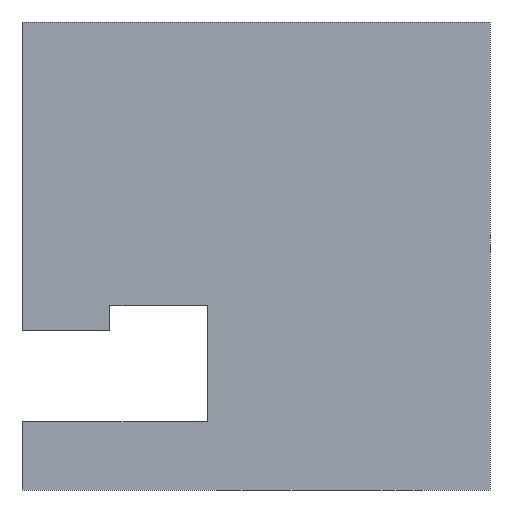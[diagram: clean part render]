
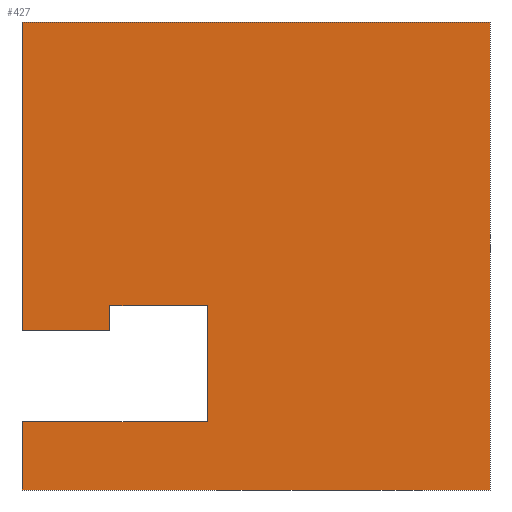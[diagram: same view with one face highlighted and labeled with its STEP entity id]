
A CAD part, front view. The second image highlights one B-rep face of the part: STEP entity #427.
In plain terms, the highlighted planar face has unit normal (0, -1, 0).
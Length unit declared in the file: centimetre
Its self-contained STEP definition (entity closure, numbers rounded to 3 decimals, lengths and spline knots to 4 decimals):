
#31 = VERTEX_POINT ( 'NONE', #914 ) ;
#37 = ORIENTED_EDGE ( 'NONE', *, *, #806, .T. ) ;
#60 = ORIENTED_EDGE ( 'NONE', *, *, #968, .F. ) ;
#109 = CARTESIAN_POINT ( 'NONE',  ( 396.7601, 0., 145.6426 ) ) ;
#115 = EDGE_CURVE ( 'NONE', #1110, #851, #379, .T. ) ;
#121 = LINE ( 'NONE', #688, #1247 ) ;
#126 = VERTEX_POINT ( 'NONE', #943 ) ;
#127 = DIRECTION ( 'NONE',  ( 1., 0., 0. ) ) ;
#162 = CARTESIAN_POINT ( 'NONE',  ( 187.8175, 0., 339.8632 ) ) ;
#174 = DIRECTION ( 'NONE',  ( 1., 0., 0. ) ) ;
#181 = VERTEX_POINT ( 'NONE', #893 ) ;
#186 = DIRECTION ( 'NONE',  ( 0., 0., -1. ) ) ;
#201 = VECTOR ( 'NONE', #127, 100. ) ;
#243 = DIRECTION ( 'NONE',  ( 1., 0., 0. ) ) ;
#250 = ORIENTED_EDGE ( 'NONE', *, *, #813, .T. ) ;
#256 = VERTEX_POINT ( 'NONE', #109 ) ;
#266 = CARTESIAN_POINT ( 'NONE',  ( 0., 0., 1000. ) ) ;
#276 = CARTESIAN_POINT ( 'NONE',  ( 0., 0., 1000. ) ) ;
#282 = LINE ( 'NONE', #378, #575 ) ;
#327 = ORIENTED_EDGE ( 'NONE', *, *, #946, .T. ) ;
#341 = VECTOR ( 'NONE', #174, 100. ) ;
#365 = VECTOR ( 'NONE', #758, 100. ) ;
#378 = CARTESIAN_POINT ( 'NONE',  ( 187.8175, 0., 145.6426 ) ) ;
#379 = LINE ( 'NONE', #442, #912 ) ;
#380 = LINE ( 'NONE', #266, #341 ) ;
#412 = EDGE_LOOP ( 'NONE', ( #857, #581, #327, #250, #983, #60, #1120, #37, #911, #816, #827, #656 ) ) ;
#427 = ADVANCED_FACE ( 'NONE', ( #1027 ), #1111, .F. ) ;
#430 = CARTESIAN_POINT ( 'NONE',  ( 0., 0., 1000. ) ) ;
#442 = CARTESIAN_POINT ( 'NONE',  ( 1000., 0., 1000. ) ) ;
#447 = VERTEX_POINT ( 'NONE', #928 ) ;
#458 = CARTESIAN_POINT ( 'NONE',  ( 0., 0., 339.8632 ) ) ;
#464 = VERTEX_POINT ( 'NONE', #1242 ) ;
#469 = CARTESIAN_POINT ( 'NONE',  ( 396.7601, 0., 393.5311 ) ) ;
#477 = EDGE_CURVE ( 'NONE', #126, #256, #732, .T. ) ;
#519 = EDGE_CURVE ( 'NONE', #256, #917, #921, .T. ) ;
#529 = DIRECTION ( 'NONE',  ( 0., 1., 0. ) ) ;
#534 = CARTESIAN_POINT ( 'NONE',  ( 187.8175, 0., 145.6426 ) ) ;
#552 = VERTEX_POINT ( 'NONE', #162 ) ;
#575 = VECTOR ( 'NONE', #783, 100. ) ;
#576 = EDGE_CURVE ( 'NONE', #464, #126, #282, .T. ) ;
#581 = ORIENTED_EDGE ( 'NONE', *, *, #1249, .T. ) ;
#585 = DIRECTION ( 'NONE',  ( 0., 0., -1. ) ) ;
#589 = DIRECTION ( 'NONE',  ( -1., 0., 0. ) ) ;
#628 = CARTESIAN_POINT ( 'NONE',  ( 1000., 0., 0. ) ) ;
#636 = CARTESIAN_POINT ( 'NONE',  ( 0., 0., 147.3555 ) ) ;
#653 = EDGE_CURVE ( 'NONE', #1153, #552, #1214, .T. ) ;
#656 = ORIENTED_EDGE ( 'NONE', *, *, #477, .F. ) ;
#688 = CARTESIAN_POINT ( 'NONE',  ( 0., 0., 147.3555 ) ) ;
#692 = EDGE_CURVE ( 'NONE', #917, #1153, #1193, .T. ) ;
#709 = AXIS2_PLACEMENT_3D ( 'NONE', #838, #529, #1014 ) ;
#722 = CARTESIAN_POINT ( 'NONE',  ( 187.8175, 0., 393.5311 ) ) ;
#732 = LINE ( 'NONE', #534, #1104 ) ;
#758 = DIRECTION ( 'NONE',  ( 0., 0., -1. ) ) ;
#783 = DIRECTION ( 'NONE',  ( 0., 0., -1. ) ) ;
#788 = EDGE_CURVE ( 'NONE', #447, #181, #840, .T. ) ;
#806 = EDGE_CURVE ( 'NONE', #181, #552, #1029, .T. ) ;
#813 = EDGE_CURVE ( 'NONE', #31, #851, #1139, .T. ) ;
#816 = ORIENTED_EDGE ( 'NONE', *, *, #692, .F. ) ;
#825 = CARTESIAN_POINT ( 'NONE',  ( 0., 0., 0. ) ) ;
#827 = ORIENTED_EDGE ( 'NONE', *, *, #519, .F. ) ;
#838 = CARTESIAN_POINT ( 'NONE',  ( 0., 0., 1000. ) ) ;
#839 = DIRECTION ( 'NONE',  ( 0., 0., -1. ) ) ;
#840 = LINE ( 'NONE', #430, #365 ) ;
#841 = VECTOR ( 'NONE', #899, 100. ) ;
#846 = CARTESIAN_POINT ( 'NONE',  ( 396.7601, 0., 145.6426 ) ) ;
#851 = VERTEX_POINT ( 'NONE', #628 ) ;
#857 = ORIENTED_EDGE ( 'NONE', *, *, #576, .F. ) ;
#893 = CARTESIAN_POINT ( 'NONE',  ( 0., 0., 339.8632 ) ) ;
#899 = DIRECTION ( 'NONE',  ( -1., 0., 0. ) ) ;
#904 = VECTOR ( 'NONE', #186, 100. ) ;
#911 = ORIENTED_EDGE ( 'NONE', *, *, #653, .F. ) ;
#912 = VECTOR ( 'NONE', #839, 100. ) ;
#914 = CARTESIAN_POINT ( 'NONE',  ( 0., 0., 0. ) ) ;
#917 = VERTEX_POINT ( 'NONE', #469 ) ;
#918 = VECTOR ( 'NONE', #1236, 100. ) ;
#921 = LINE ( 'NONE', #846, #1046 ) ;
#924 = CARTESIAN_POINT ( 'NONE',  ( 1000., 0., 1000. ) ) ;
#928 = CARTESIAN_POINT ( 'NONE',  ( 0., 0., 1000. ) ) ;
#943 = CARTESIAN_POINT ( 'NONE',  ( 187.8175, 0., 145.6426 ) ) ;
#946 = EDGE_CURVE ( 'NONE', #1203, #31, #1167, .T. ) ;
#968 = EDGE_CURVE ( 'NONE', #447, #1110, #380, .T. ) ;
#983 = ORIENTED_EDGE ( 'NONE', *, *, #115, .F. ) ;
#1014 = DIRECTION ( 'NONE',  ( 0., 0., 1. ) ) ;
#1027 = FACE_OUTER_BOUND ( 'NONE', #412, .T. ) ;
#1029 = LINE ( 'NONE', #458, #201 ) ;
#1046 = VECTOR ( 'NONE', #1212, 100. ) ;
#1078 = VECTOR ( 'NONE', #585, 100. ) ;
#1096 = CARTESIAN_POINT ( 'NONE',  ( 187.8175, 0., 145.6426 ) ) ;
#1104 = VECTOR ( 'NONE', #243, 100. ) ;
#1110 = VERTEX_POINT ( 'NONE', #924 ) ;
#1111 = PLANE ( 'NONE',  #709 ) ;
#1120 = ORIENTED_EDGE ( 'NONE', *, *, #788, .T. ) ;
#1139 = LINE ( 'NONE', #825, #918 ) ;
#1153 = VERTEX_POINT ( 'NONE', #722 ) ;
#1167 = LINE ( 'NONE', #276, #904 ) ;
#1193 = LINE ( 'NONE', #1283, #841 ) ;
#1203 = VERTEX_POINT ( 'NONE', #636 ) ;
#1212 = DIRECTION ( 'NONE',  ( 0., 0., 1. ) ) ;
#1214 = LINE ( 'NONE', #1096, #1078 ) ;
#1236 = DIRECTION ( 'NONE',  ( 1., 0., 0. ) ) ;
#1242 = CARTESIAN_POINT ( 'NONE',  ( 187.8175, 0., 147.3555 ) ) ;
#1247 = VECTOR ( 'NONE', #589, 100. ) ;
#1249 = EDGE_CURVE ( 'NONE', #464, #1203, #121, .T. ) ;
#1283 = CARTESIAN_POINT ( 'NONE',  ( 187.8175, 0., 393.5311 ) ) ;
